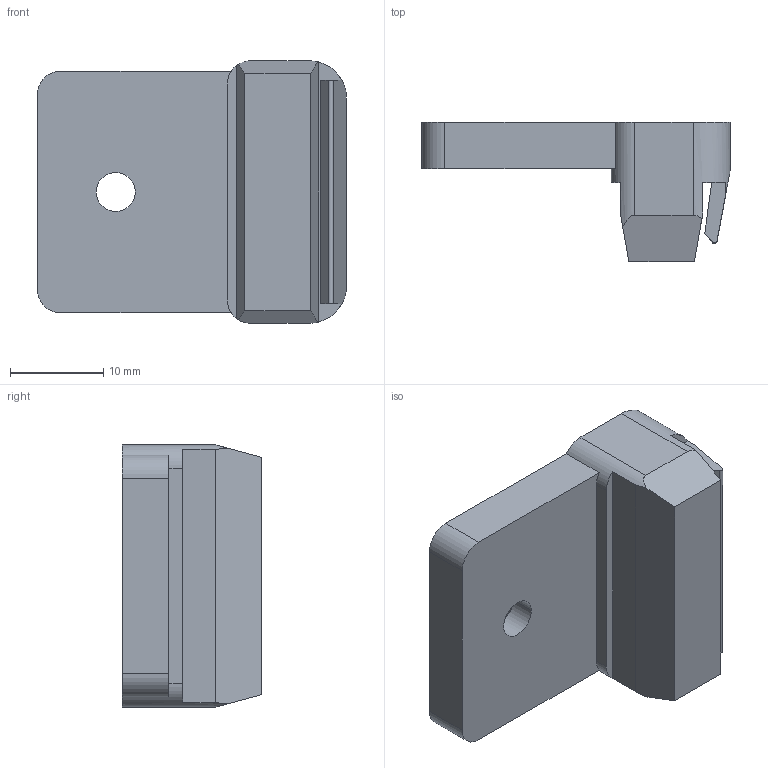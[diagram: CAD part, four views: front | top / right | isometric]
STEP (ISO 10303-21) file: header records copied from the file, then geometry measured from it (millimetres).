
FILE_DESCRIPTION (( 'STEP AP214' ), '1' );
FILE_NAME ('_Relingshalter_RückwandK615000300_anschrauben_rechts.step', '2010-09-07T12:12:25', ( 'grass' ), ( '' ), 'SwSTEP 2.0', 'SolidWorks 2010', '' );
FILE_SCHEMA (( 'AUTOMOTIVE_DESIGN' ));
Length unit declared in the file: millimetre
Products named in the file (1): _Relingshalter_RückwandK615000300_anschrauben_rechts
Bounding box: 33.2 x 15 x 28.2 mm (x, y, z)
Volume: 6971.8 mm3; surface area: 3324.5 mm2
Topology: 1 solids, 1 shells, 34 faces, 94 edges, 62 vertices
Faces by surface type: plane 23, cylinder 9, cone 2
Entity records: 1122 total; most frequent: CARTESIAN_POINT 221, ORIENTED_EDGE 188, DIRECTION 176, EDGE_CURVE 94, LINE 62, VECTOR 62, VERTEX_POINT 62, AXIS2_PLACEMENT_3D 57
